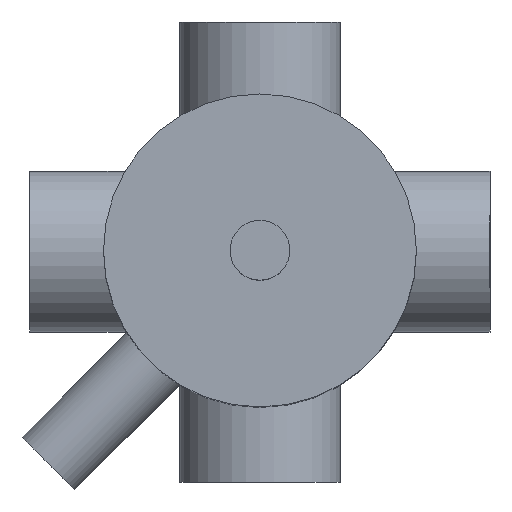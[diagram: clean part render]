
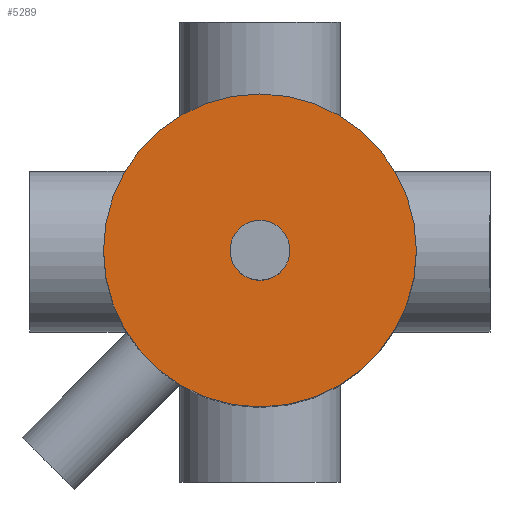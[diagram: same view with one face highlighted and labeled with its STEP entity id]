
A CAD part, top view. The second image highlights one B-rep face of the part: STEP entity #5289.
In plain terms, the highlighted planar face has unit normal (0, 0, 1).
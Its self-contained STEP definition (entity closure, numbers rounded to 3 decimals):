
#5205 = CYLINDRICAL_SURFACE('',#5206,68.);
#5206 = AXIS2_PLACEMENT_3D('',#5207,#5208,#5209);
#5207 = CARTESIAN_POINT('',(0.,0.,177.75));
#5208 = DIRECTION('',(0.,0.,1.));
#5209 = DIRECTION('',(1.,0.,0.));
#5238 = EDGE_CURVE('',#5239,#5239,#5241,.T.);
#5239 = VERTEX_POINT('',#5240);
#5240 = CARTESIAN_POINT('',(68.,0.,349.95));
#5241 = SURFACE_CURVE('',#5242,(#5247,#5254),.PCURVE_S1.);
#5242 = CIRCLE('',#5243,68.);
#5243 = AXIS2_PLACEMENT_3D('',#5244,#5245,#5246);
#5244 = CARTESIAN_POINT('',(0.,0.,349.95));
#5245 = DIRECTION('',(0.,0.,1.));
#5246 = DIRECTION('',(1.,0.,0.));
#5247 = PCURVE('',#5205,#5248);
#5248 = DEFINITIONAL_REPRESENTATION('',(#5249),#5253);
#5249 = LINE('',#5250,#5251);
#5250 = CARTESIAN_POINT('',(0.,172.2));
#5251 = VECTOR('',#5252,1.);
#5252 = DIRECTION('',(1.,0.));
#5253 = ( GEOMETRIC_REPRESENTATION_CONTEXT(2) 
PARAMETRIC_REPRESENTATION_CONTEXT() REPRESENTATION_CONTEXT('2D SPACE',''
  ) );
#5254 = PCURVE('',#5255,#5260);
#5255 = PLANE('',#5256);
#5256 = AXIS2_PLACEMENT_3D('',#5257,#5258,#5259);
#5257 = CARTESIAN_POINT('',(0.,0.,349.95));
#5258 = DIRECTION('',(0.,0.,1.));
#5259 = DIRECTION('',(1.,0.,0.));
#5260 = DEFINITIONAL_REPRESENTATION('',(#5261),#5265);
#5261 = CIRCLE('',#5262,68.);
#5262 = AXIS2_PLACEMENT_2D('',#5263,#5264);
#5263 = CARTESIAN_POINT('',(0.,0.));
#5264 = DIRECTION('',(1.,0.));
#5265 = ( GEOMETRIC_REPRESENTATION_CONTEXT(2) 
PARAMETRIC_REPRESENTATION_CONTEXT() REPRESENTATION_CONTEXT('2D SPACE',''
  ) );
#5289 = ADVANCED_FACE('',(#5290,#5293),#5255,.T.);
#5290 = FACE_BOUND('',#5291,.T.);
#5291 = EDGE_LOOP('',(#5292));
#5292 = ORIENTED_EDGE('',*,*,#5238,.T.);
#5293 = FACE_BOUND('',#5294,.T.);
#5294 = EDGE_LOOP('',(#5295));
#5295 = ORIENTED_EDGE('',*,*,#5296,.F.);
#5296 = EDGE_CURVE('',#5297,#5297,#5299,.T.);
#5297 = VERTEX_POINT('',#5298);
#5298 = CARTESIAN_POINT('',(13.,0.,349.95));
#5299 = SURFACE_CURVE('',#5300,(#5305,#5312),.PCURVE_S1.);
#5300 = CIRCLE('',#5301,13.);
#5301 = AXIS2_PLACEMENT_3D('',#5302,#5303,#5304);
#5302 = CARTESIAN_POINT('',(0.,0.,349.95));
#5303 = DIRECTION('',(0.,0.,1.));
#5304 = DIRECTION('',(1.,0.,-0.));
#5305 = PCURVE('',#5255,#5306);
#5306 = DEFINITIONAL_REPRESENTATION('',(#5307),#5311);
#5307 = CIRCLE('',#5308,13.);
#5308 = AXIS2_PLACEMENT_2D('',#5309,#5310);
#5309 = CARTESIAN_POINT('',(0.,0.));
#5310 = DIRECTION('',(1.,0.));
#5311 = ( GEOMETRIC_REPRESENTATION_CONTEXT(2) 
PARAMETRIC_REPRESENTATION_CONTEXT() REPRESENTATION_CONTEXT('2D SPACE',''
  ) );
#5312 = PCURVE('',#5313,#5318);
#5313 = CYLINDRICAL_SURFACE('',#5314,13.);
#5314 = AXIS2_PLACEMENT_3D('',#5315,#5316,#5317);
#5315 = CARTESIAN_POINT('',(0.,0.,58.5));
#5316 = DIRECTION('',(0.,0.,1.));
#5317 = DIRECTION('',(1.,0.,0.));
#5318 = DEFINITIONAL_REPRESENTATION('',(#5319),#5323);
#5319 = LINE('',#5320,#5321);
#5320 = CARTESIAN_POINT('',(0.,291.45));
#5321 = VECTOR('',#5322,1.);
#5322 = DIRECTION('',(1.,0.));
#5323 = ( GEOMETRIC_REPRESENTATION_CONTEXT(2) 
PARAMETRIC_REPRESENTATION_CONTEXT() REPRESENTATION_CONTEXT('2D SPACE',''
  ) );
